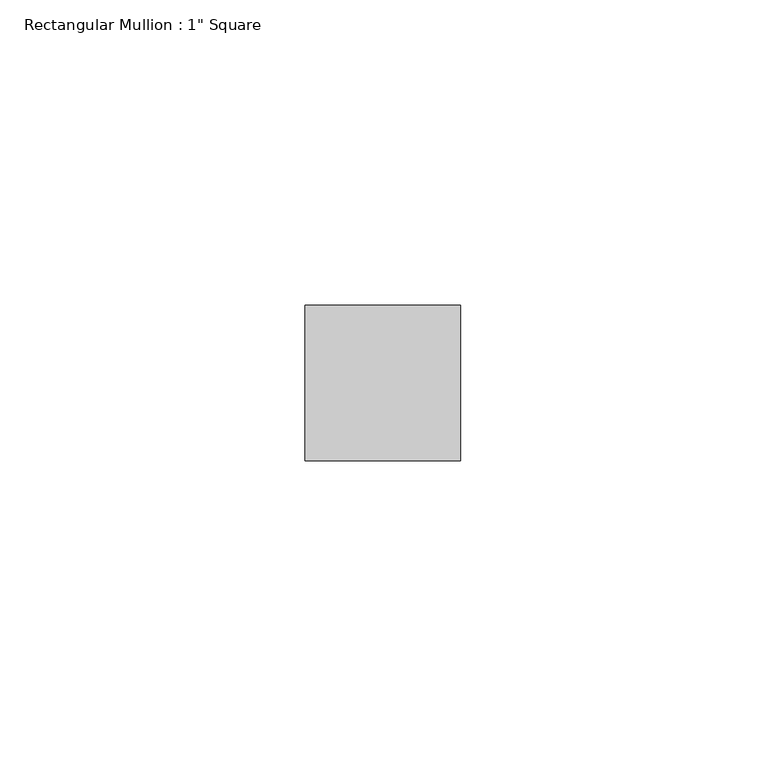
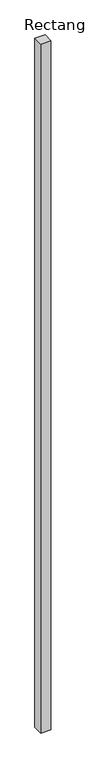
"""IFC4 building model written with IfcOpenShell, lengths in millimetres: member geometry."""

import ifcopenshell
import ifcopenshell.guid

model = None  # the IFC model being written
_history = None  # IfcOwnerHistory: only IFC2X3 demands one
_inside = {}  # id of a spatial element -> (the spatial element, [elements in it])
_under = {}  # id of a project, library or spatial element -> (it, [spatial elements below it])
_declared = {}  # id of a project -> (the project, [libraries it declares])
_typed = {}  # id of a type object -> (the type object, [elements of that type])
_made_of = {}  # id of a material, layer set ... -> (it, [elements and type objects made of it])


def new_model(schema):
    """Start an empty IFC model of exactly this schema.

    Asked for "IFC4X3", IfcOpenShell would pick the latest addendum, in which some entities
    have other attributes; the version numbers below select the first issue.
    IFC2X3 requires an IfcOwnerHistory on every rooted entity: one is made here for all.
    """
    global model, _history
    if schema == "IFC4X3":
        model = ifcopenshell.file(schema_version=(4, 3, 0, 0))
    else:
        model = ifcopenshell.file(schema=schema)
    _inside.clear()
    _under.clear()
    _declared.clear()
    _typed.clear()
    _made_of.clear()
    _history = None
    if model.schema == "IFC2X3":
        org = make("IfcOrganization", Name="unknown")
        user = make(
            "IfcPersonAndOrganization",
            ThePerson=make("IfcPerson", FamilyName="unknown"),
            TheOrganization=org,
        )
        app = make(
            "IfcApplication",
            ApplicationDeveloper=org,
            Version="unknown",
            ApplicationFullName="unknown",
            ApplicationIdentifier="unknown",
        )
        _history = make(
            "IfcOwnerHistory",
            OwningUser=user,
            OwningApplication=app,
            ChangeAction="ADDED",
            CreationDate=0,
        )
    return model


def make(cls, **values):
    """One entity of the class cls with the attributes given. An attribute that is None is left unset."""
    return model.create_entity(
        cls, **{name: value for name, value in values.items() if value is not None}
    )


def rooted(cls, **values):
    """An entity with a GlobalId (a new one), such as an element, a storey or a relation."""
    return make(cls, GlobalId=ifcopenshell.guid.new(), OwnerHistory=_history, **values)


def si_unit(unit_type, name, prefix=None):
    """IfcSIUnit, for example si_unit("LENGTHUNIT", "METRE", prefix="MILLI")."""
    return make("IfcSIUnit", UnitType=unit_type, Prefix=prefix, Name=name)


def assignment(units):
    """IfcUnitAssignment: the units of a project."""
    return None if units is None else make("IfcUnitAssignment", Units=units)


def point(xyz):
    """IfcCartesianPoint."""
    return None if xyz is None else make("IfcCartesianPoint", Coordinates=xyz)


def direction(xyz):
    """IfcDirection."""
    return None if xyz is None else make("IfcDirection", DirectionRatios=xyz)


def frame(location, z_axis=None, x_axis=None):
    """IfcAxis2Placement3D, a coordinate frame: its origin and axes. An axis left out is left unset."""
    return make(
        "IfcAxis2Placement3D",
        Location=point(location),
        Axis=direction(z_axis),
        RefDirection=direction(x_axis),
    )


def origin():
    """The frame at (0, 0, 0) with its axes left unset."""
    return frame((0.0, 0.0, 0.0))


def place(relative_to, where):
    """IfcLocalPlacement: puts the frame where relative to a parent placement (None: the world)."""
    return make(
        "IfcLocalPlacement", PlacementRelTo=relative_to, RelativePlacement=where
    )


def context(
    kind, dimensions, precision=None, world=None, true_north=None, identifier=None
):
    """IfcGeometricRepresentationContext, for example the 3D "Model" context."""
    return make(
        "IfcGeometricRepresentationContext",
        ContextIdentifier=identifier,
        ContextType=kind,
        CoordinateSpaceDimension=dimensions,
        Precision=precision,
        WorldCoordinateSystem=world,
        TrueNorth=true_north,
    )


def project(units=None, contexts=None):
    """IfcProject with its units and contexts."""
    return rooted(
        "IfcProject",
        Name="project",
        RepresentationContexts=contexts,
        UnitsInContext=assignment(units),
    )


def spatial(cls, under=None, at=None, **own):
    """A site, building, storey or space (cls), placed at a placement, below another one or the project."""
    s = rooted(cls, ObjectPlacement=at, **own)
    if under is not None:
        _under.setdefault(under.id(), (under, []))[1].append(s)
    return s


def polyline(points):
    """IfcPolyline through the points."""
    return make("IfcPolyline", Points=[point(p) for p in points])


def outline(outer, holes=None, kind="AREA"):
    """IfcArbitraryClosedProfileDef: a profile drawn as a closed curve; with holes, ...WithVoids."""
    if holes is None:
        return make("IfcArbitraryClosedProfileDef", ProfileType=kind, OuterCurve=outer)
    return make(
        "IfcArbitraryProfileDefWithVoids",
        ProfileType=kind,
        OuterCurve=outer,
        InnerCurves=holes,
    )


def extrude(swept, where, along, depth):
    """IfcExtrudedAreaSolid: the profile swept, set in the frame where, extruded along a direction by depth."""
    return make(
        "IfcExtrudedAreaSolid",
        SweptArea=swept,
        Position=where,
        ExtrudedDirection=direction(along),
        Depth=depth,
    )


def shape(context_of_items, identifier, shape_type, items):
    """IfcShapeRepresentation: the items that make up one representation, for example the "Body"."""
    return make(
        "IfcShapeRepresentation",
        ContextOfItems=context_of_items,
        RepresentationIdentifier=identifier,
        RepresentationType=shape_type,
        Items=items,
    )


def source(mapping_origin, context_of_items, identifier, shape_type, items):
    """IfcRepresentationMap: a shape defined once, which mapped items show again and again."""
    return make(
        "IfcRepresentationMap",
        MappingOrigin=mapping_origin,
        MappedRepresentation=shape(context_of_items, identifier, shape_type, items),
    )


def transform(
    local_origin,
    x_axis=None,
    y_axis=None,
    z_axis=None,
    scale=None,
    scale2=None,
    scale3=None,
    uniform=True,
):
    """IfcCartesianTransformationOperator3D, or its non-uniform kind. x_axis, y_axis, z_axis: its Axis1, 2, 3."""
    if uniform:
        return make(
            "IfcCartesianTransformationOperator3D",
            Axis1=direction(x_axis),
            Axis2=direction(y_axis),
            LocalOrigin=point(local_origin),
            Scale=scale,
            Axis3=direction(z_axis),
        )
    return make(
        "IfcCartesianTransformationOperator3DnonUniform",
        Axis1=direction(x_axis),
        Axis2=direction(y_axis),
        LocalOrigin=point(local_origin),
        Scale=scale,
        Axis3=direction(z_axis),
        Scale2=scale2,
        Scale3=scale3,
    )


def mapped(mapping_source, mapping_target):
    """IfcMappedItem: shows the shape of a source again, moved by a transform."""
    return make(
        "IfcMappedItem", MappingSource=mapping_source, MappingTarget=mapping_target
    )


def made_of(thing, what):
    """Note that an element or type object is made of a material, layer set ...; save() writes the relation."""
    if what is not None:
        _made_of.setdefault(what.id(), (what, []))[1].append(thing)
    return thing


def element(
    cls,
    number,
    at=None,
    inside=None,
    cuts=None,
    type_object=None,
    material=None,
    context=None,
    identifier="Body",
    shape_type=None,
    held_by="IfcProductDefinitionShape",
    body=None,
    shapes=None,
    **own,
):
    """One element of the class cls, such as IfcWall. Its Tag is "e" and its number.

    at: its placement. inside: the storey or other place that contains it. cuts: it is an
    opening in that element (IfcRelVoidsElement). A single representation is given by context,
    identifier, shape_type and body (its items); several are given by shapes. held_by: the class
    of the entity that holds the representations. save() writes the other relations.
    """
    e = rooted(cls, Tag="e%d" % number, ObjectPlacement=at, **own)
    if body is not None:
        shapes = [shape(context, identifier, shape_type, body)]
    if shapes is not None:
        e.Representation = make(held_by, Representations=shapes)
    if inside is not None:
        _inside.setdefault(inside.id(), (inside, []))[1].append(e)
    if cuts is not None:
        rooted(
            "IfcRelVoidsElement", RelatingBuildingElement=cuts, RelatedOpeningElement=e
        )
    if type_object is not None:
        _typed.setdefault(type_object.id(), (type_object, []))[1].append(e)
    return made_of(e, material)


def aggregate(whole, parts):
    """IfcRelAggregates: a whole, such as a stair, and the parts it consists of."""
    return rooted("IfcRelAggregates", RelatingObject=whole, RelatedObjects=parts)


def save(model, path):
    """Write the relations noted so far, then the file.

    IfcRelAggregates (storeys below a building ...), IfcRelContainedInSpatialStructure (elements
    in a storey), IfcRelDefinesByType, IfcRelAssociatesMaterial and IfcRelDeclares: one each for
    every whole, place, type object, material and project.
    """
    for whole, parts in _under.values():
        aggregate(whole, parts)
    for where, things in _inside.values():
        rooted(
            "IfcRelContainedInSpatialStructure",
            RelatedElements=things,
            RelatingStructure=where,
        )
    for kind, things in _typed.values():
        rooted("IfcRelDefinesByType", RelatedObjects=things, RelatingType=kind)
    for what, things in _made_of.values():
        rooted("IfcRelAssociatesMaterial", RelatedObjects=things, RelatingMaterial=what)
    for by, libraries in _declared.values():
        rooted("IfcRelDeclares", RelatingContext=by, RelatedDefinitions=libraries)
    model.write(path)


def member_4f4d7b95(model_context):
    return source(origin(), model_context, "Body", "SweptSolid", [
        extrude(outline(polyline([(0.0, 12.7), (0.0, -12.7), (-25.4, -12.7), (-25.4, 12.7), (0.0, 12.7)])), frame((0.0, 0.0, -1828.1013754), z_axis=(0.0, 0.0, 1.0), x_axis=(1.0, 0.0, 0.0)), (0.0, 0.0, 1.0), 1828.1013754),
    ])


if __name__ == "__main__":
    model = new_model("IFC4")
    model_context = context("Model", 3, world=origin())
    ifc_project = project(units=[si_unit("LENGTHUNIT", "METRE", prefix="MILLI")], contexts=[model_context])
    site = spatial("IfcSite", under=ifc_project)
    building = spatial("IfcBuilding", under=site)
    placement = place(None, origin())
    member_shape = member_4f4d7b95(model_context)
    element("IfcMember", 1, ObjectType="Rectangular Mullion : 1\" Square", at=placement, inside=building, context=model_context, shape_type="MappedRepresentation", body=[
        mapped(member_shape, transform((0.0, 0.0, 0.0), x_axis=(1.0, 0.0, 0.0), y_axis=(0.0, 1.0, 0.0), z_axis=(0.0, 0.0, 1.0))),
    ])
    save(model, "model.ifc")
